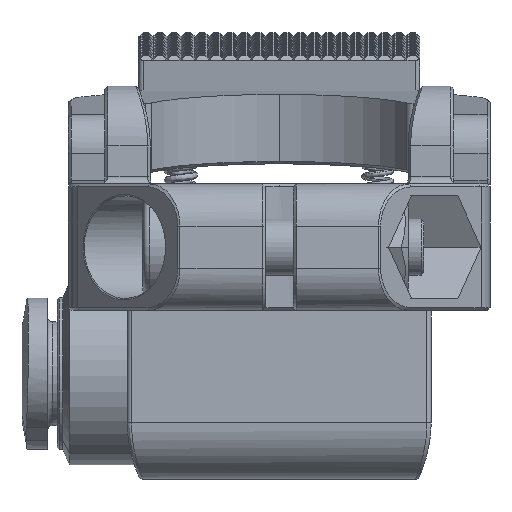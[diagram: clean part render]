
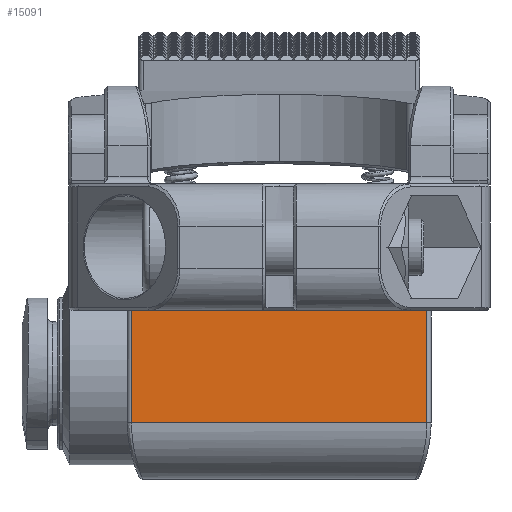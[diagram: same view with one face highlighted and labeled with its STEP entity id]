
A CAD part, left-side view. The second image highlights one B-rep face of the part: STEP entity #15091.
In plain terms, the highlighted planar face has unit normal (-1, 0, 0).
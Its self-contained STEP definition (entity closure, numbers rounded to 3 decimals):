
#2146 = VECTOR ( 'NONE', #25252, 1000. ) ;
#4731 = CARTESIAN_POINT ( 'NONE',  ( 12.5, -10.983, -17. ) ) ;
#5385 = DIRECTION ( 'NONE',  ( 1., 0., 0. ) ) ;
#7064 = LINE ( 'NONE', #4731, #41820 ) ;
#7971 = ORIENTED_EDGE ( 'NONE', *, *, #55187, .T. ) ;
#11428 = AXIS2_PLACEMENT_3D ( 'NONE', #44521, #5385, #51075 ) ;
#14103 = CARTESIAN_POINT ( 'NONE',  ( 12.5, -10.507, -17. ) ) ;
#15091 = ADVANCED_FACE ( 'NONE', ( #70672 ), #37980, .F. ) ;
#17616 = EDGE_LOOP ( 'NONE', ( #25706, #49873, #23371, #7971 ) ) ;
#19472 = LINE ( 'NONE', #83728, #2146 ) ;
#22183 = DIRECTION ( 'NONE',  ( 0., 1., 0. ) ) ;
#23371 = ORIENTED_EDGE ( 'NONE', *, *, #63031, .T. ) ;
#24996 = VECTOR ( 'NONE', #22183, 1000. ) ;
#25252 = DIRECTION ( 'NONE',  ( 0., 0., -1. ) ) ;
#25706 = ORIENTED_EDGE ( 'NONE', *, *, #82495, .T. ) ;
#25764 = VERTEX_POINT ( 'NONE', #14103 ) ;
#26556 = LINE ( 'NONE', #47833, #76539 ) ;
#31681 = EDGE_CURVE ( 'NONE', #36927, #47771, #19472, .T. ) ;
#36927 = VERTEX_POINT ( 'NONE', #55497 ) ;
#37057 = DIRECTION ( 'NONE',  ( 0., -1., 0. ) ) ;
#37980 = PLANE ( 'NONE',  #11428 ) ;
#41820 = VECTOR ( 'NONE', #37057, 1000. ) ;
#44521 = CARTESIAN_POINT ( 'NONE',  ( 12.5, 10.983, -21. ) ) ;
#47543 = DIRECTION ( 'NONE',  ( 0., 0., 1. ) ) ;
#47771 = VERTEX_POINT ( 'NONE', #73820 ) ;
#47833 = CARTESIAN_POINT ( 'NONE',  ( 12.5, -10.507, -21. ) ) ;
#49873 = ORIENTED_EDGE ( 'NONE', *, *, #31681, .T. ) ;
#51075 = DIRECTION ( 'NONE',  ( 0., 1., 0. ) ) ;
#55187 = EDGE_CURVE ( 'NONE', #25764, #65505, #26556, .T. ) ;
#55497 = CARTESIAN_POINT ( 'NONE',  ( 12.5, 10.507, -9. ) ) ;
#63031 = EDGE_CURVE ( 'NONE', #47771, #25764, #7064, .T. ) ;
#65505 = VERTEX_POINT ( 'NONE', #65657 ) ;
#65657 = CARTESIAN_POINT ( 'NONE',  ( 12.5, -10.507, -9. ) ) ;
#70672 = FACE_OUTER_BOUND ( 'NONE', #17616, .T. ) ;
#73820 = CARTESIAN_POINT ( 'NONE',  ( 12.5, 10.507, -17. ) ) ;
#74103 = CARTESIAN_POINT ( 'NONE',  ( 12.5, 10.983, -9. ) ) ;
#76539 = VECTOR ( 'NONE', #47543, 1000. ) ;
#79127 = LINE ( 'NONE', #74103, #24996 ) ;
#82495 = EDGE_CURVE ( 'NONE', #65505, #36927, #79127, .T. ) ;
#83728 = CARTESIAN_POINT ( 'NONE',  ( 12.5, 10.507, -21. ) ) ;
